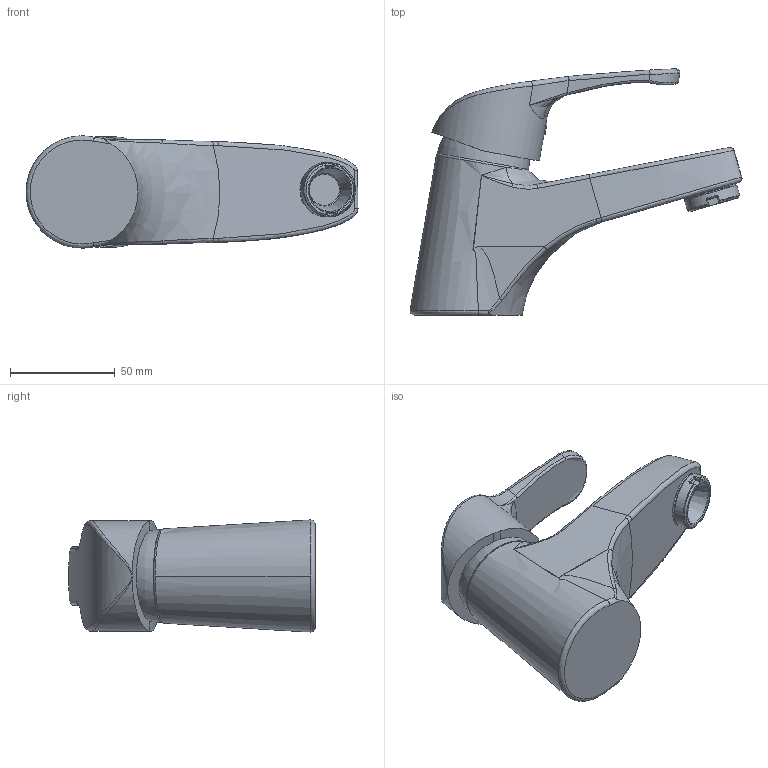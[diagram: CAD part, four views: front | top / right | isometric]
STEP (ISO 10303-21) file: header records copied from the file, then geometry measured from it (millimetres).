
FILE_DESCRIPTION (( 'STEP AP203' ), '1' );
FILE_NAME ('42CR205CAKM.STEP', '2020-04-13T17:20:45', ( '' ), ( '' ), 'SwSTEP 2.0', 'SolidWorks 2018', '' );
FILE_SCHEMA (( 'CONFIG_CONTROL_DESIGN' ));
Length unit declared in the file: millimetre
Products named in the file (1): 42CR205CAKM
Bounding box: 158.81 x 117.96 x 53.69 mm (x, y, z)
Volume: 351598.2 mm3; surface area: 43290.2 mm2
Topology: 2 solids, 2 shells, 152 faces, 366 edges, 215 vertices
Faces by surface type: bspline 63, cylinder 35, plane 29, torus 17, cone 5, sphere 3
Entity records: 11152 total; most frequent: CARTESIAN_POINT 8134, ORIENTED_EDGE 718, DIRECTION 467, EDGE_CURVE 359, VERTEX_POINT 214, AXIS2_PLACEMENT_3D 196, B_SPLINE_CURVE_WITH_KNOTS 167, EDGE_LOOP 155
